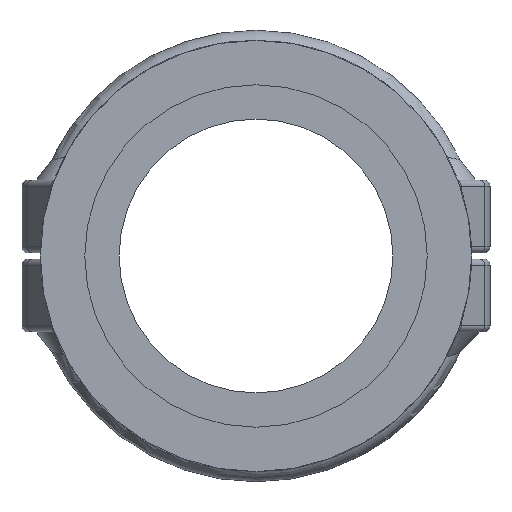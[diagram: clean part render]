
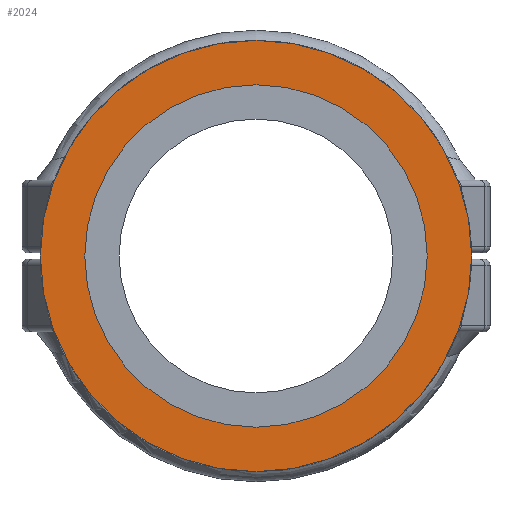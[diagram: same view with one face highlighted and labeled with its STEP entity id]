
A CAD part, left-side view. The second image highlights one B-rep face of the part: STEP entity #2024.
In plain terms, the highlighted planar face has unit normal (-1, 0, 0).
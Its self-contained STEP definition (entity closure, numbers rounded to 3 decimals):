
#583=CARTESIAN_POINT('',(-83.748,0.,0.));
#584=DIRECTION('',(1.,0.,0.));
#585=DIRECTION('',(0.,0.,1.));
#586=AXIS2_PLACEMENT_3D('',#583,#584,#585);
#591=CARTESIAN_POINT('',(-83.748,0.,0.));
#592=DIRECTION('',(1.,0.,0.));
#593=DIRECTION('',(0.,0.,-1.));
#594=AXIS2_PLACEMENT_3D('',#591,#592,#593);
#599=CARTESIAN_POINT('',(-83.748,0.,0.));
#600=DIRECTION('',(-1.,0.,0.));
#601=DIRECTION('',(0.,0.,1.));
#602=AXIS2_PLACEMENT_3D('',#599,#600,#601);
#607=CARTESIAN_POINT('',(-83.748,0.,0.));
#608=DIRECTION('',(-1.,0.,0.));
#609=DIRECTION('',(0.,0.,-1.));
#610=AXIS2_PLACEMENT_3D('',#607,#608,#609);
#1679=CARTESIAN_POINT('',(-83.748,0.,-35.484));
#1680=CARTESIAN_POINT('',(-83.748,0.,35.484));
#1681=VERTEX_POINT('',#1679);
#1682=VERTEX_POINT('',#1680);
#1687=CARTESIAN_POINT('',(-83.748,0.,28.167));
#1688=CARTESIAN_POINT('',(-83.748,0.,-28.167));
#1689=VERTEX_POINT('',#1687);
#1690=VERTEX_POINT('',#1688);
#2008=CARTESIAN_POINT('',(-83.748,37.724,0.));
#2009=DIRECTION('',(1.,0.,0.));
#2010=DIRECTION('',(0.,0.,-1.));
#2011=AXIS2_PLACEMENT_3D('',#2008,#2009,#2010);
#2012=PLANE('',#2011);
#2014=ORIENTED_EDGE('',*,*,#2013,.T.);
#2015=ORIENTED_EDGE('',*,*,#1986,.T.);
#2016=EDGE_LOOP('',(#2014,#2015));
#2017=FACE_OUTER_BOUND('',#2016,.F.);
#2019=ORIENTED_EDGE('',*,*,#2018,.T.);
#2021=ORIENTED_EDGE('',*,*,#2020,.T.);
#2022=EDGE_LOOP('',(#2019,#2021));
#2023=FACE_BOUND('',#2022,.F.);
#587=CIRCLE('',#586,35.484);
#595=CIRCLE('',#594,35.484);
#603=CIRCLE('',#602,28.167);
#611=CIRCLE('',#610,28.167);
#1986=EDGE_CURVE('',#1681,#1682,#595,.T.);
#2013=EDGE_CURVE('',#1682,#1681,#587,.T.);
#2018=EDGE_CURVE('',#1689,#1690,#603,.T.);
#2020=EDGE_CURVE('',#1690,#1689,#611,.T.);
#2024=ADVANCED_FACE('',(#2017,#2023),#2012,.F.);
